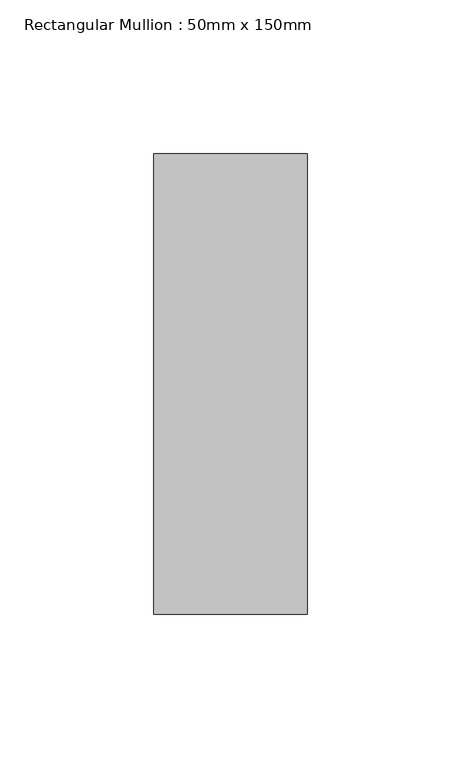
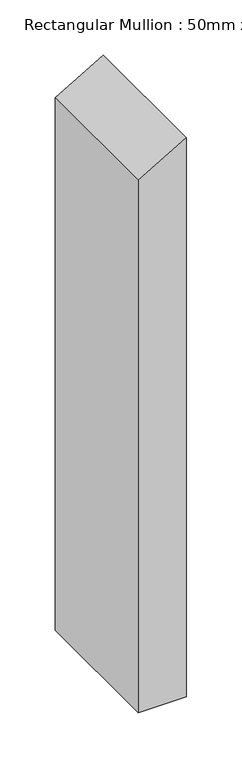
"""IFC4 building model written with IfcOpenShell, lengths in millimetres: member geometry, Rectangular Mullion : 50mm x 150mm."""

from ifc_helpers import new_model, si_unit, frame, origin, place, context, project, spatial, polyline, outline, extrude, source, transform, mapped, element, save


def rectangular_mullion_50mm_x_150mm_c5f810fe(model_context):
    return source(origin(), model_context, "Body", "SweptSolid", [
        extrude(outline(polyline([(-43.3033439, 25.0), (-72.7372881, -25.0), (-659.844629, -25.0), (-659.844629, 25.0), (-43.3033439, 25.0)])), frame((0.0, -75.0, 0.0), z_axis=(0.0, 1.0, 0.0), x_axis=(0.0, 0.0, 1.0)), (0.0, 0.0, 1.0), 150.0),
    ])


if __name__ == "__main__":
    model = new_model("IFC4")
    model_context = context("Model", 3, world=origin())
    ifc_project = project(units=[si_unit("LENGTHUNIT", "METRE", prefix="MILLI")], contexts=[model_context])
    site = spatial("IfcSite", under=ifc_project)
    building = spatial("IfcBuilding", under=site)
    placement = place(None, origin())
    rectangular_mullion_50mm_x_150mm_shape = rectangular_mullion_50mm_x_150mm_c5f810fe(model_context)
    element("IfcMember", 1, ObjectType="Rectangular Mullion : 50mm x 150mm", at=placement, inside=building, context=model_context, shape_type="MappedRepresentation", body=[
        mapped(rectangular_mullion_50mm_x_150mm_shape, transform((0.0, 0.0, 0.0), x_axis=(1.0, 0.0, 0.0), y_axis=(0.0, 1.0, 0.0), z_axis=(0.0, 0.0, 1.0))),
    ])
    save(model, "model.ifc")
